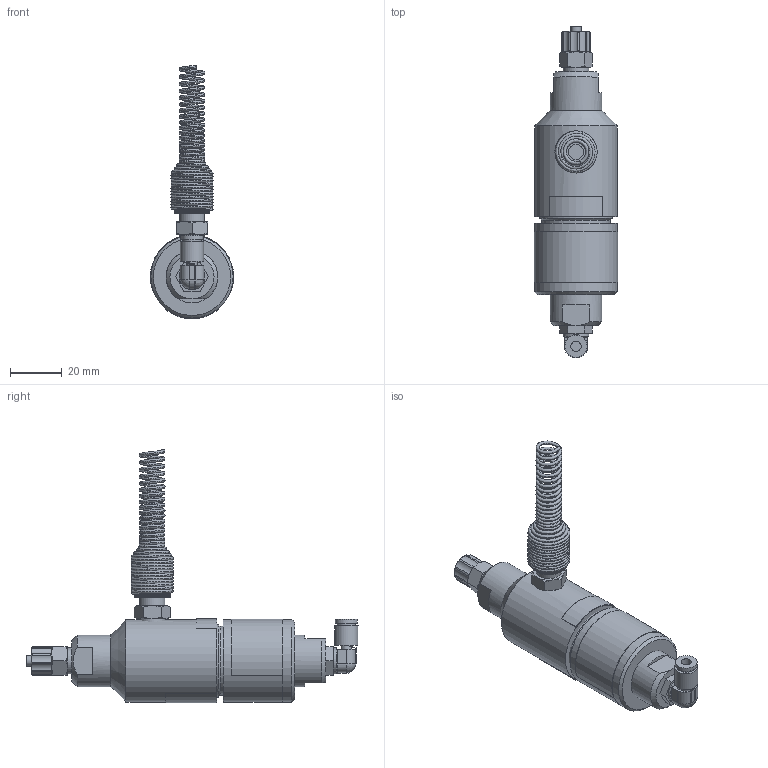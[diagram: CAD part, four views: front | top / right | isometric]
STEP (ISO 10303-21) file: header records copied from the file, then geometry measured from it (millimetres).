
FILE_DESCRIPTION((''),'2;1');
FILE_NAME('C:\3D Projects\3D Standard Parts\97136 Rev 1 Shutoff Valve 8950474.stp','2008-03-19T08:34:53',('patch'),(''),'Autodesk Inventor 2008','Autodesk Inventor 2008','');
FILE_SCHEMA(('AUTOMOTIVE_DESIGN { 1 0 10303 214 1 1 1 1 }'));
Length unit declared in the file: millimetre
Products named in the file (17): 97135 Rev 2 Shutoff Valve 8950470; 8950472 Diaphragm Shut Off Valve; 8950507 Shut off valve housing; 8950508 PTFE Insert; 8950471 Diaphragm Valve Actuator; 8950509 Actuator Housing; 8950511 Cap; 8950520 Elbow Fitting; 8950524 Sealing Adapter; 8900003 Luer Lock Adapter; 8900002 Luer Lock Fitting; 415101968; 8950522 Spring Guard 0.25 Tube; 8950562 Batch Number Label; 8950563 Loctite Logo Label; 8950690 Loctite Logo Label
Assembly tree (16 placements, depth 3):
  97135 Rev 2 Shutoff Valve 8950470
    8950472 Diaphragm Shut Off Valve
      8950507 Shut off valve housing
      8950508 PTFE Insert
      8950472 Diaphragm Shut Off Valve
    8950471 Diaphragm Valve Actuator
      8950509 Actuator Housing
      8950511 Cap
    8950520 Elbow Fitting
    8950524 Sealing Adapter
    8900003 Luer Lock Adapter
    8900002 Luer Lock Fitting
    415101968
    8950522 Spring Guard 0.25 Tube
    8950562 Batch Number Label
    8950563 Loctite Logo Label
    8950690 Loctite Logo Label
Bounding box: 32.19 x 128.2 x 97.95 mm (x, y, z)
Volume: 51863.2 mm3; surface area: 39628.3 mm2
Topology: 13 solids, 14 shells, 451 faces, 1105 edges, 700 vertices
Faces by surface type: plane 275, cylinder 85, cone 70, bspline 19, torus 1, sphere 1
Full cylindrical faces by diameter (mm): 1.5 x1, 2 x3, 3 x2, 4 x2, 5 x2, 5.2 x1, 6 x2, 7 x1, 8 x3, 8.2 x1, 8.5 x2, 8.57 x3, 8.6 x1, 8.92 x2, 9 x1, 9.72 x1, 9.73 x2, 9.95 x1, 10 x1, 12 x1, 15 x2, 19.9 x1, 20 x1, 24 x2, 24.5 x1, 24.65 x1, 24.75 x1, 25 x1, 25.4 x1, 26.2 x1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
Entity records: 22520 total; most frequent: CARTESIAN_POINT 12034, ORIENTED_EDGE 2018, DIRECTION 1983, EDGE_CURVE 1010, AXIS2_PLACEMENT_3D 688, VERTEX_POINT 677, VECTOR 607, LINE 607
